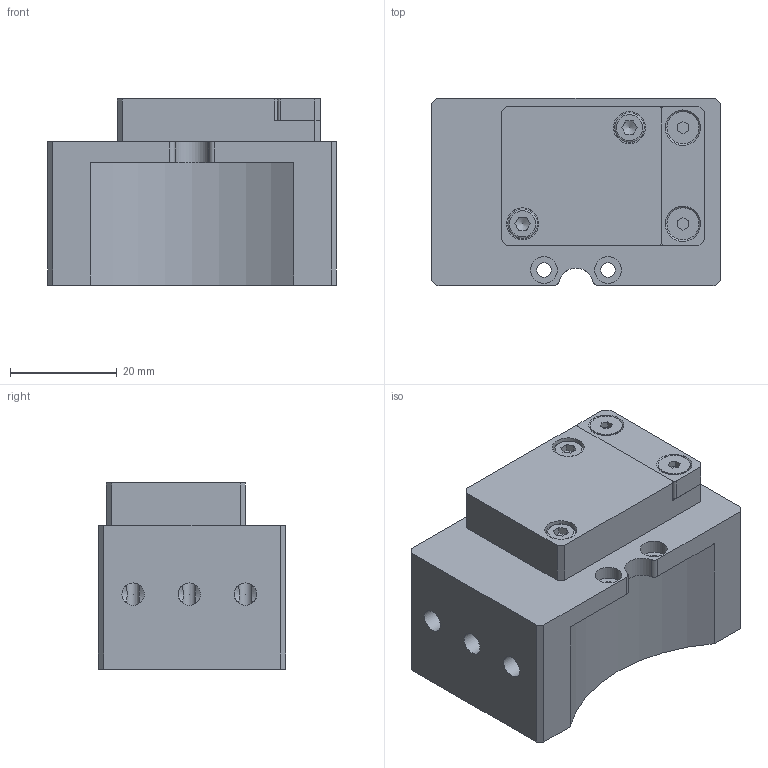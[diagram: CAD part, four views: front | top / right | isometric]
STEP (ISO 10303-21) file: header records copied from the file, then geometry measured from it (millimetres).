
FILE_DESCRIPTION(/* description */ (''),/* implementation_level */ '2;1');
FILE_NAME(/* name */ '\\dc01\daten\CAD\Standard\MEK\G-MEK063-160\MEK063\Kunde\Bystronic\G-MEK063-O-6PM5-1E12.stp',/* time_stamp */ '2017-11-09T14:07:05+01:00',/* author */ ('ysplieth'),/* organization */ (''),/* preprocessor_version */ 'ST-DEVELOPER v16.13',/* originating_system */ 'Autodesk Inventor 2018',/* authorisation */ '');
FILE_SCHEMA (('AUTOMOTIVE_DESIGN { 1 0 10303 214 3 1 1 }'));
Length unit declared in the file: millimetre
Products named in the file (1): Bauteil3
Bounding box: 54 x 35 x 34.8 mm (x, y, z)
Volume: 45653.7 mm3; surface area: 21638.4 mm2
Topology: 23 solids, 23 shells, 396 faces, 998 edges, 651 vertices
Faces by surface type: plane 166, cylinder 142, cone 67, sphere 12, torus 9
Full cylindrical faces by diameter (mm): 1 x12, 1.6 x12, 2 x26, 2.459 x2, 2.5 x8, 2.7 x14, 3 x4, 3.4 x4, 4.2 x6, 5 x2, 5.5 x2, 6 x4, 6.2 x1, 6.3 x6, 14 x1, 15.9 x1, 17 x1, 17.1 x1, 18.2 x1, 19 x1, 23 x2, 25.5 x1
Entity records: 11577 total; most frequent: CARTESIAN_POINT 2969, DIRECTION 1699, ORIENTED_EDGE 1374, AXIS2_PLACEMENT_3D 693, EDGE_CURVE 687, EDGE_LOOP 648, VERTEX_POINT 529, STYLED_ITEM 418
